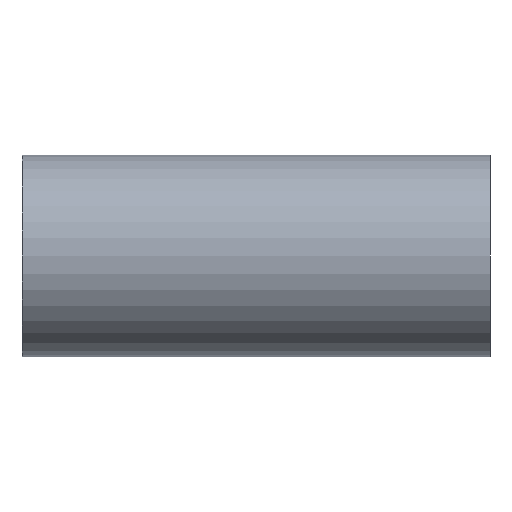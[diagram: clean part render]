
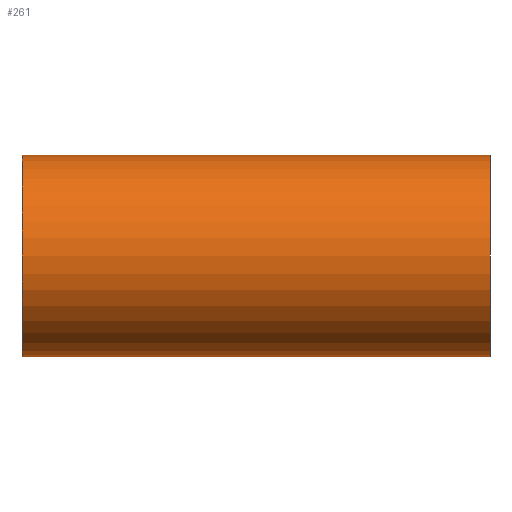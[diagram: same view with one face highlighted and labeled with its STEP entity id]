
A CAD part, front view. The second image highlights one B-rep face of the part: STEP entity #261.
In plain terms, the highlighted cylindrical face has radius 38.1 mm (diameter 76.2 mm), a partial arc.
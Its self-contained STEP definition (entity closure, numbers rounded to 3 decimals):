
#11 = AXIS2_PLACEMENT_3D ( 'NONE', #255, #252, #238 ) ;
#59 = ORIENTED_EDGE ( 'NONE', *, *, #465, .F. ) ;
#130 = VERTEX_POINT ( 'NONE', #387 ) ;
#139 = EDGE_LOOP ( 'NONE', ( #59, #206, #149, #202 ) ) ;
#145 = VERTEX_POINT ( 'NONE', #349 ) ;
#149 = ORIENTED_EDGE ( 'NONE', *, *, #369, .T. ) ;
#151 = VECTOR ( 'NONE', #157, 1000. ) ;
#152 = DIRECTION ( 'NONE',  ( -1., 0., 0. ) ) ;
#157 = DIRECTION ( 'NONE',  ( -1., 0., 0. ) ) ;
#177 = DIRECTION ( 'NONE',  ( 1., 0., 0. ) ) ;
#185 = CARTESIAN_POINT ( 'NONE',  ( 196.163, 0., 38.1 ) ) ;
#200 = CARTESIAN_POINT ( 'NONE',  ( -88.4, 0., -38.1 ) ) ;
#202 = ORIENTED_EDGE ( 'NONE', *, *, #566, .T. ) ;
#206 = ORIENTED_EDGE ( 'NONE', *, *, #248, .T. ) ;
#219 = CARTESIAN_POINT ( 'NONE',  ( 88.4, 0., -38.1 ) ) ;
#238 = DIRECTION ( 'NONE',  ( 0., 0., 1. ) ) ;
#239 = DIRECTION ( 'NONE',  ( 0., 0., 1. ) ) ;
#242 = DIRECTION ( 'NONE',  ( -1., 0., 0. ) ) ;
#245 = CARTESIAN_POINT ( 'NONE',  ( 88.4, 0., 0. ) ) ;
#248 = EDGE_CURVE ( 'NONE', #268, #130, #435, .T. ) ;
#251 = VECTOR ( 'NONE', #152, 1000. ) ;
#252 = DIRECTION ( 'NONE',  ( -1., 0., 0. ) ) ;
#255 = CARTESIAN_POINT ( 'NONE',  ( 196.163, 0., 0. ) ) ;
#261 = ADVANCED_FACE ( 'NONE', ( #436 ), #493, .T. ) ;
#268 = VERTEX_POINT ( 'NONE', #219 ) ;
#349 = CARTESIAN_POINT ( 'NONE',  ( -88.4, 0., 38.1 ) ) ;
#369 = EDGE_CURVE ( 'NONE', #130, #145, #596, .T. ) ;
#387 = CARTESIAN_POINT ( 'NONE',  ( 88.4, 0., 38.1 ) ) ;
#435 = CIRCLE ( 'NONE', #476, 38.1 ) ;
#436 = FACE_OUTER_BOUND ( 'NONE', #139, .T. ) ;
#465 = EDGE_CURVE ( 'NONE', #268, #531, #513, .T. ) ;
#476 = AXIS2_PLACEMENT_3D ( 'NONE', #245, #242, #239 ) ;
#493 = CYLINDRICAL_SURFACE ( 'NONE', #11, 38.1 ) ;
#512 = CARTESIAN_POINT ( 'NONE',  ( -88.4, 0., 0. ) ) ;
#513 = LINE ( 'NONE', #563, #251 ) ;
#531 = VERTEX_POINT ( 'NONE', #200 ) ;
#543 = DIRECTION ( 'NONE',  ( 0., 0., 1. ) ) ;
#563 = CARTESIAN_POINT ( 'NONE',  ( 196.163, 0., -38.1 ) ) ;
#565 = AXIS2_PLACEMENT_3D ( 'NONE', #512, #177, #543 ) ;
#566 = EDGE_CURVE ( 'NONE', #145, #531, #607, .T. ) ;
#596 = LINE ( 'NONE', #185, #151 ) ;
#607 = CIRCLE ( 'NONE', #565, 38.1 ) ;
